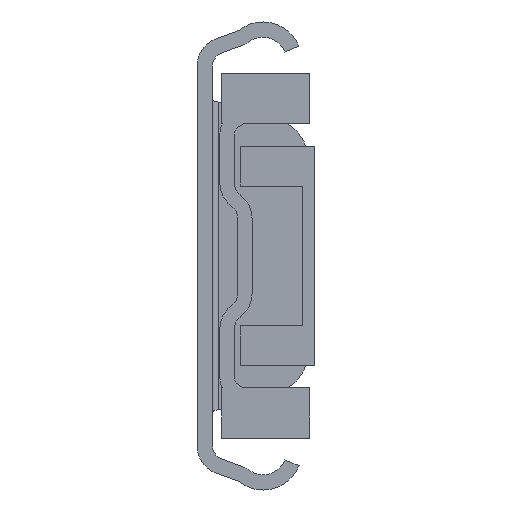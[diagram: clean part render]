
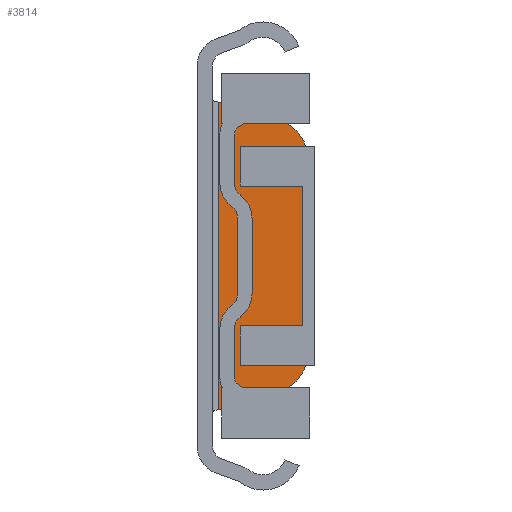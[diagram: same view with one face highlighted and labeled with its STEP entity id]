
A CAD part, front view. The second image highlights one B-rep face of the part: STEP entity #3814.
In plain terms, the highlighted planar face has unit normal (0, -1, 0).
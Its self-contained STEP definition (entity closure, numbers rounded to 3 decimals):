
#337=LINE('',#6547,#720);
#338=LINE('',#6552,#721);
#339=LINE('',#6556,#722);
#340=LINE('',#6558,#723);
#720=VECTOR('',#5419,1000.);
#721=VECTOR('',#5422,1000.);
#722=VECTOR('',#5425,1000.);
#723=VECTOR('',#5426,1000.);
#887=PLANE('',#4506);
#1731=ORIENTED_EDGE('',*,*,#2427,.F.);
#1732=ORIENTED_EDGE('',*,*,#2428,.F.);
#1733=ORIENTED_EDGE('',*,*,#2429,.F.);
#1734=ORIENTED_EDGE('',*,*,#2430,.F.);
#1735=ORIENTED_EDGE('',*,*,#2431,.F.);
#1736=ORIENTED_EDGE('',*,*,#2432,.F.);
#2427=EDGE_CURVE('',#2848,#2849,#337,.T.);
#2428=EDGE_CURVE('',#2850,#2848,#3060,.F.);
#2429=EDGE_CURVE('',#2851,#2850,#338,.T.);
#2430=EDGE_CURVE('',#2852,#2851,#3061,.F.);
#2431=EDGE_CURVE('',#2853,#2852,#339,.T.);
#2432=EDGE_CURVE('',#2849,#2853,#340,.T.);
#2848=VERTEX_POINT('',#6548);
#2849=VERTEX_POINT('',#6549);
#2850=VERTEX_POINT('',#6551);
#2851=VERTEX_POINT('',#6553);
#2852=VERTEX_POINT('',#6555);
#2853=VERTEX_POINT('',#6557);
#3060=CIRCLE('',#4507,8.);
#3061=CIRCLE('',#4508,8.);
#3283=EDGE_LOOP('',(#1731,#1732,#1733,#1734,#1735,#1736));
#3524=FACE_BOUND('',#3283,.T.);
#3814=ADVANCED_FACE('',(#3524),#887,.T.);
#4506=AXIS2_PLACEMENT_3D('',#6546,#5417,#5418);
#4507=AXIS2_PLACEMENT_3D('',#6550,#5420,#5421);
#4508=AXIS2_PLACEMENT_3D('',#6554,#5423,#5424);
#5417=DIRECTION('',(0.,-1.,0.));
#5418=DIRECTION('',(0.,0.,-1.));
#5419=DIRECTION('',(-0.966,0.,-0.259));
#5420=DIRECTION('',(0.,-1.,0.));
#5421=DIRECTION('',(0.,0.,-1.));
#5422=DIRECTION('',(0.,0.,-1.));
#5423=DIRECTION('',(0.,-1.,0.));
#5424=DIRECTION('',(0.,0.,-1.));
#5425=DIRECTION('',(0.966,0.,-0.259));
#5426=DIRECTION('',(0.,0.,1.));
#6546=CARTESIAN_POINT('',(12.9,708.7,14.965));
#6547=CARTESIAN_POINT('',(22.316,708.7,-20.174));
#6548=CARTESIAN_POINT('',(12.471,708.7,-22.812));
#6549=CARTESIAN_POINT('',(3.5,708.7,-25.216));
#6550=CARTESIAN_POINT('',(10.4,708.7,-15.085));
#6551=CARTESIAN_POINT('',(18.4,708.7,-15.085));
#6552=CARTESIAN_POINT('',(18.4,708.7,14.965));
#6553=CARTESIAN_POINT('',(18.4,708.7,15.085));
#6554=CARTESIAN_POINT('',(10.4,708.7,15.085));
#6555=CARTESIAN_POINT('',(12.471,708.7,22.812));
#6556=CARTESIAN_POINT('',(14.833,708.7,22.179));
#6557=CARTESIAN_POINT('',(3.5,708.7,25.216));
#6558=CARTESIAN_POINT('',(3.5,708.7,-25.766));
